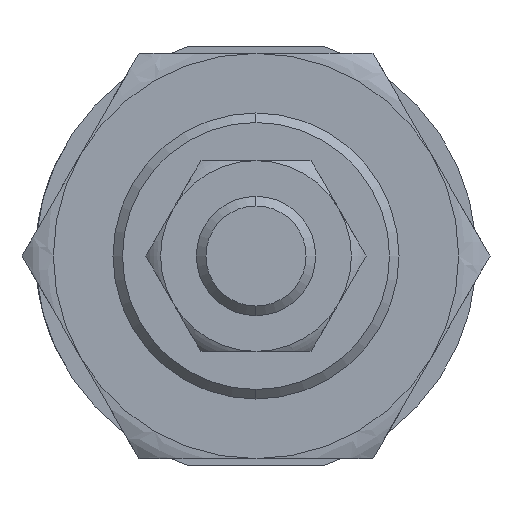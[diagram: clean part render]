
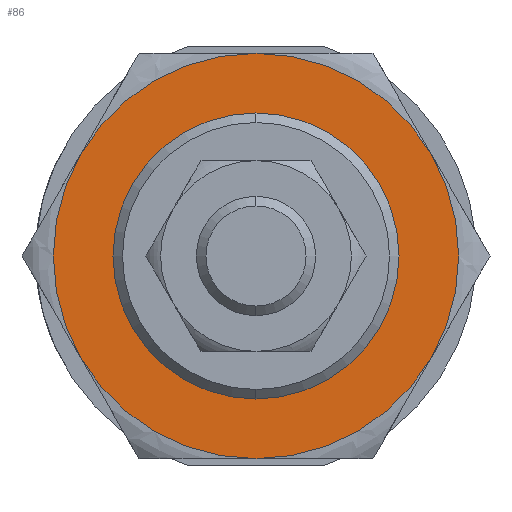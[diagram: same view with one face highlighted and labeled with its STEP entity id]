
A CAD part, left-side view. The second image highlights one B-rep face of the part: STEP entity #86.
In plain terms, the highlighted planar face has unit normal (-1, 0, 0).
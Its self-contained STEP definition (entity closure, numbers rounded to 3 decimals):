
#39 = EDGE_LOOP ( 'NONE', ( #2757, #2862, #820, #866, #617, #2214 ) ) ;
#55 = VERTEX_POINT ( 'NONE', #1552 ) ;
#86 = ADVANCED_FACE ( 'NONE', ( #1856, #872 ), #1707, .F. ) ;
#106 = CIRCLE ( 'NONE', #1695, 8.5 ) ;
#173 = DIRECTION ( 'NONE',  ( 1., 0., 0. ) ) ;
#299 = EDGE_CURVE ( 'NONE', #55, #577, #106, .T. ) ;
#319 = DIRECTION ( 'NONE',  ( 0., 0., -1. ) ) ;
#327 = CARTESIAN_POINT ( 'NONE',  ( -1.5, 7.361, 4.25 ) ) ;
#434 = DIRECTION ( 'NONE',  ( 1., 0., 0. ) ) ;
#465 = AXIS2_PLACEMENT_3D ( 'NONE', #2575, #1844, #2120 ) ;
#473 = VERTEX_POINT ( 'NONE', #327 ) ;
#479 = CARTESIAN_POINT ( 'NONE',  ( -1.5, 0., 0. ) ) ;
#522 = AXIS2_PLACEMENT_3D ( 'NONE', #792, #2559, #2207 ) ;
#577 = VERTEX_POINT ( 'NONE', #589 ) ;
#589 = CARTESIAN_POINT ( 'NONE',  ( -1.5, 0., -8.5 ) ) ;
#593 = DIRECTION ( 'NONE',  ( 0., 0., -1. ) ) ;
#617 = ORIENTED_EDGE ( 'NONE', *, *, #1764, .T. ) ;
#620 = CARTESIAN_POINT ( 'NONE',  ( -1.5, -7.361, 4.25 ) ) ;
#630 = EDGE_CURVE ( 'NONE', #577, #1989, #794, .T. ) ;
#792 = CARTESIAN_POINT ( 'NONE',  ( -1.5, 0., 0. ) ) ;
#794 = CIRCLE ( 'NONE', #1236, 8.5 ) ;
#820 = ORIENTED_EDGE ( 'NONE', *, *, #2195, .F. ) ;
#823 = VERTEX_POINT ( 'NONE', #2368 ) ;
#836 = CIRCLE ( 'NONE', #3055, 5.25 ) ;
#866 = ORIENTED_EDGE ( 'NONE', *, *, #2762, .F. ) ;
#872 = FACE_OUTER_BOUND ( 'NONE', #39, .T. ) ;
#874 = EDGE_CURVE ( 'NONE', #1989, #473, #1354, .T. ) ;
#910 = CARTESIAN_POINT ( 'NONE',  ( -1.5, 0., -5.25 ) ) ;
#918 = CARTESIAN_POINT ( 'NONE',  ( -1.5, 0., 0. ) ) ;
#932 = CARTESIAN_POINT ( 'NONE',  ( -1.5, 0., 8.5 ) ) ;
#957 = AXIS2_PLACEMENT_3D ( 'NONE', #479, #2832, #2336 ) ;
#1018 = CIRCLE ( 'NONE', #2680, 5.25 ) ;
#1089 = DIRECTION ( 'NONE',  ( 0., 0., -1. ) ) ;
#1167 = VERTEX_POINT ( 'NONE', #910 ) ;
#1236 = AXIS2_PLACEMENT_3D ( 'NONE', #1721, #1379, #593 ) ;
#1354 = CIRCLE ( 'NONE', #1899, 8.5 ) ;
#1379 = DIRECTION ( 'NONE',  ( 1., 0., 0. ) ) ;
#1388 = EDGE_CURVE ( 'NONE', #823, #1167, #836, .T. ) ;
#1403 = ORIENTED_EDGE ( 'NONE', *, *, #1388, .T. ) ;
#1406 = DIRECTION ( 'NONE',  ( 0., 0., -1. ) ) ;
#1495 = CIRCLE ( 'NONE', #957, 8.5 ) ;
#1552 = CARTESIAN_POINT ( 'NONE',  ( -1.5, -7.361, -4.25 ) ) ;
#1693 = DIRECTION ( 'NONE',  ( 1., 0., 0. ) ) ;
#1695 = AXIS2_PLACEMENT_3D ( 'NONE', #2390, #434, #1992 ) ;
#1707 = PLANE ( 'NONE',  #1781 ) ;
#1721 = CARTESIAN_POINT ( 'NONE',  ( -1.5, 0., 0. ) ) ;
#1764 = EDGE_CURVE ( 'NONE', #1829, #473, #2573, .T. ) ;
#1781 = AXIS2_PLACEMENT_3D ( 'NONE', #2093, #2493, #1406 ) ;
#1822 = CARTESIAN_POINT ( 'NONE',  ( -1.5, 0., 0. ) ) ;
#1829 = VERTEX_POINT ( 'NONE', #932 ) ;
#1844 = DIRECTION ( 'NONE',  ( 1., 0., 0. ) ) ;
#1856 = FACE_BOUND ( 'NONE', #1880, .T. ) ;
#1880 = EDGE_LOOP ( 'NONE', ( #1984, #1403 ) ) ;
#1899 = AXIS2_PLACEMENT_3D ( 'NONE', #2177, #1693, #1089 ) ;
#1984 = ORIENTED_EDGE ( 'NONE', *, *, #2412, .T. ) ;
#1989 = VERTEX_POINT ( 'NONE', #2990 ) ;
#1992 = DIRECTION ( 'NONE',  ( 0., 0., -1. ) ) ;
#2093 = CARTESIAN_POINT ( 'NONE',  ( -1.5, 0., 0. ) ) ;
#2120 = DIRECTION ( 'NONE',  ( 0., 0., -1. ) ) ;
#2177 = CARTESIAN_POINT ( 'NONE',  ( -1.5, 0., 0. ) ) ;
#2195 = EDGE_CURVE ( 'NONE', #2681, #55, #1495, .T. ) ;
#2207 = DIRECTION ( 'NONE',  ( 0., 0., 1. ) ) ;
#2214 = ORIENTED_EDGE ( 'NONE', *, *, #874, .F. ) ;
#2336 = DIRECTION ( 'NONE',  ( 0., 0., -1. ) ) ;
#2368 = CARTESIAN_POINT ( 'NONE',  ( -1.5, 0., 5.25 ) ) ;
#2390 = CARTESIAN_POINT ( 'NONE',  ( -1.5, 0., 0. ) ) ;
#2412 = EDGE_CURVE ( 'NONE', #1167, #823, #1018, .T. ) ;
#2457 = DIRECTION ( 'NONE',  ( 0., 0., -1. ) ) ;
#2493 = DIRECTION ( 'NONE',  ( 1., 0., 0. ) ) ;
#2559 = DIRECTION ( 'NONE',  ( -1., 0., 0. ) ) ;
#2573 = CIRCLE ( 'NONE', #522, 8.5 ) ;
#2575 = CARTESIAN_POINT ( 'NONE',  ( -1.5, 0., 0. ) ) ;
#2680 = AXIS2_PLACEMENT_3D ( 'NONE', #918, #173, #319 ) ;
#2681 = VERTEX_POINT ( 'NONE', #620 ) ;
#2697 = DIRECTION ( 'NONE',  ( 1., 0., 0. ) ) ;
#2757 = ORIENTED_EDGE ( 'NONE', *, *, #630, .F. ) ;
#2762 = EDGE_CURVE ( 'NONE', #1829, #2681, #2931, .T. ) ;
#2832 = DIRECTION ( 'NONE',  ( 1., 0., 0. ) ) ;
#2862 = ORIENTED_EDGE ( 'NONE', *, *, #299, .F. ) ;
#2931 = CIRCLE ( 'NONE', #465, 8.5 ) ;
#2990 = CARTESIAN_POINT ( 'NONE',  ( -1.5, 7.361, -4.25 ) ) ;
#3055 = AXIS2_PLACEMENT_3D ( 'NONE', #1822, #2697, #2457 ) ;
